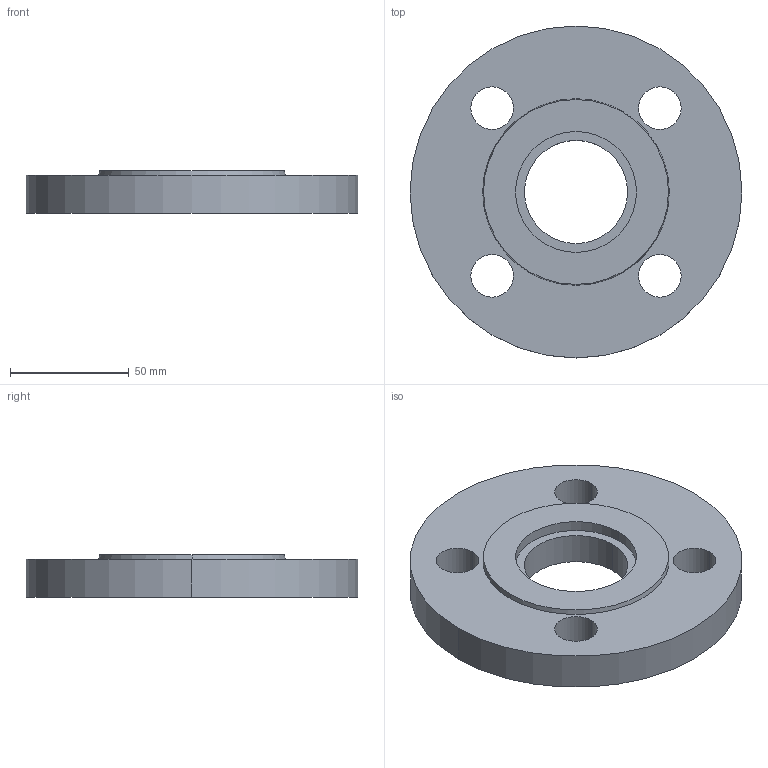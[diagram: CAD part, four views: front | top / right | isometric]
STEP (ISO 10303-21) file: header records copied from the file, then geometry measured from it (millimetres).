
FILE_DESCRIPTION (( 'STEP AP214' ), '1' );
FILE_NAME ('PN40 DN32 Type 01 - Type G Face.STEP', '2018-12-30T00:08:45', ( '' ), ( '' ), 'SwSTEP 2.0', 'SolidWorks 2019', '' );
FILE_SCHEMA (( 'AUTOMOTIVE_DESIGN' ));
Length unit declared in the file: millimetre
Products named in the file (1): PN40 DN32 Type 01 - Type G Face
Bounding box: 140 x 140 x 18 mm (x, y, z)
Volume: 210402.3 mm3; surface area: 39414.8 mm2
Topology: 1 solids, 1 shells, 20 faces, 48 edges, 32 vertices
Faces by surface type: cylinder 14, plane 4, cone 2
Entity records: 658 total; most frequent: DIRECTION 122, CARTESIAN_POINT 101, ORIENTED_EDGE 96, AXIS2_PLACEMENT_3D 53, EDGE_CURVE 48, CIRCLE 32, VERTEX_POINT 32, EDGE_LOOP 32
